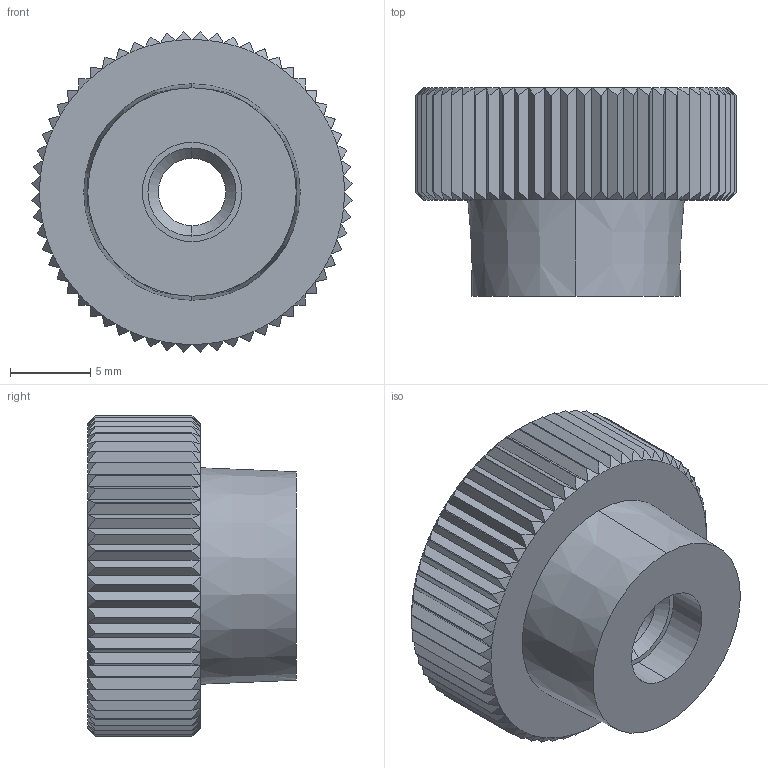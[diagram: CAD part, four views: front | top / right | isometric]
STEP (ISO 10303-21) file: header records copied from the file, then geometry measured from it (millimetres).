
FILE_DESCRIPTION (( 'STEP AP203' ), '1' );
FILE_NAME ('wn4662_20-m5.step', '2007-02-15T10:21:53', ( 'Magnus Fahlstrom' ), ( '' ), 'SwSTEP 2.0', 'SolidWorks 2007', '' );
FILE_SCHEMA (( 'CONFIG_CONTROL_DESIGN' ));
Length unit declared in the file: millimetre
Products named in the file (1): wn4662_20-m5
Bounding box: 19.98 x 13 x 19.98 mm (x, y, z)
Volume: 2429.1 mm3; surface area: 1737.3 mm2
Topology: 2 solids, 2 shells, 320 faces, 698 edges, 384 vertices
Faces by surface type: cone 128, plane 126, cylinder 66
Entity records: 8817 total; most frequent: CARTESIAN_POINT 2123, ORIENTED_EDGE 1396, DIRECTION 1364, EDGE_CURVE 698, AXIS2_PLACEMENT_3D 585, VERTEX_POINT 384, EDGE_LOOP 326, ADVANCED_FACE 320
